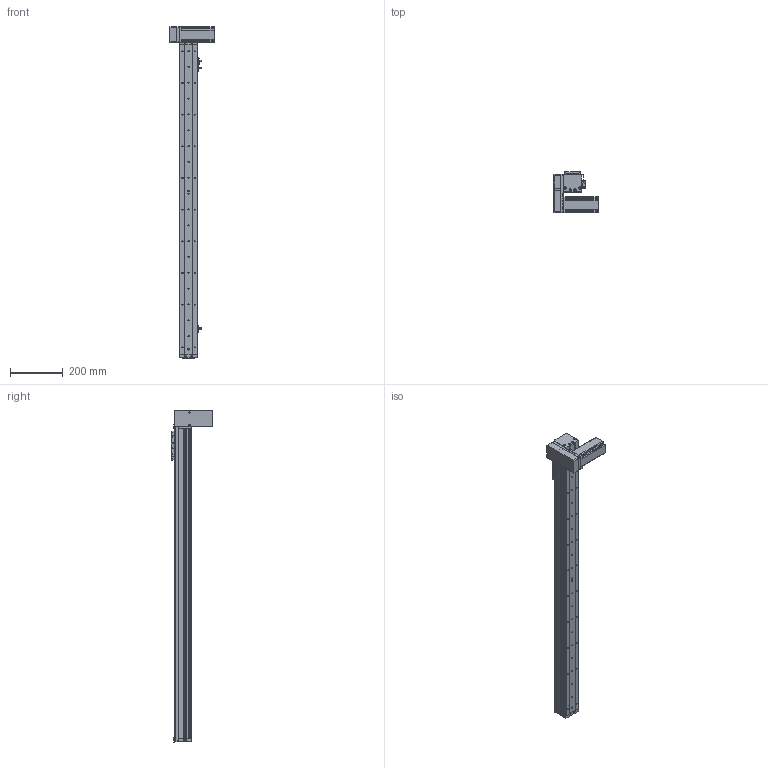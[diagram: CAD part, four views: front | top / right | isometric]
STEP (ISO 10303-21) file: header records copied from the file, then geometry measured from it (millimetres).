
FILE_DESCRIPTION (( 'STEP AP214' ), '1' );
FILE_NAME ('KSD68BS-S1000-MRD-CR.STEP', '2019-08-28T02:31:34', ( '微软用户' ), ( '微软中国' ), 'SwSTEP 2.0', 'SolidWorks 2014', '' );
FILE_SCHEMA (( 'AUTOMOTIVE_DESIGN' ));
Length unit declared in the file: millimetre
Products named in the file (14): 68宽单导轨全封闭同步带端板; 68单导轨全封闭同步带电机座右; 68单导轨全封闭同步带安装板; 悵誘欶奻狟殏; 68宽马达安装板连板上折同步带; 感应片68宽全封闭; U倰嫖萇EEㄜSX672; 台达ECMA－C20604AS伺服电机（400W); KSD68BS 1000行程底板全封闭; KSD68BS-S1000-MRD-CR; 68遵裔啣揤啣1; 68宽单导轨全封闭丝杆传动安装板1防护罩; KSD68BS 1000行程侧板全封闭; KSD68BS 1000行程盖板全封闭
Assembly tree (17 placements, depth 2):
  KSD68BS-S1000-MRD-CR
    KSD68BS 1000行程底板全封闭
    台达ECMA－C20604AS伺服电机（400W)
    U倰嫖萇EEㄜSX672  x3
    感应片68宽全封闭
    68宽马达安装板连板上折同步带
    悵誘欶奻狟殏
    68单导轨全封闭同步带安装板
    68单导轨全封闭同步带电机座右
    68宽单导轨全封闭同步带端板
    KSD68BS 1000行程侧板全封闭  x2
    68宽单导轨全封闭丝杆传动安装板1防护罩
    68遵裔啣揤啣1  x2
    KSD68BS 1000行程盖板全封闭
Bounding box: 167.2 x 155.5 x 1258.1 mm (x, y, z)
Volume: 2536816.1 mm3; surface area: 972485.4 mm2
Topology: 18 solids, 18 shells, 1526 faces, 4343 edges, 2775 vertices
Faces by surface type: cylinder 727, plane 631, cone 168
Entity records: 48402 total; most frequent: CARTESIAN_POINT 8285, DIRECTION 7251, ORIENTED_EDGE 6930, EDGE_CURVE 3465, AXIS2_PLACEMENT_3D 2619, VERTEX_POINT 2273, VECTOR 2013, LINE 2013
